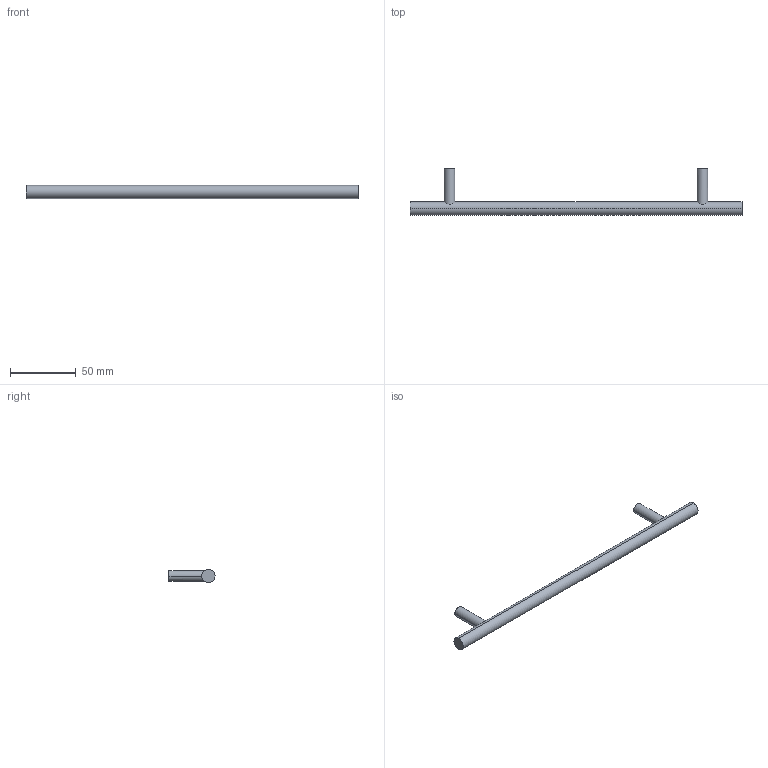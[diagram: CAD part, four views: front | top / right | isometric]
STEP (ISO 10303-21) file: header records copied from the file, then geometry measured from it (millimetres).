
FILE_DESCRIPTION( ( '' ), '1' );
FILE_NAME( 'D:/1.AUTOCAD EXPORT/Group 10/sheet_10_1/9070982.stp', '2013-10-21T08:33:57', ( '' ), ( '' ), ' ', ' ', ' ' );
FILE_SCHEMA( ( 'automotive_design' ) );
Length unit declared in the file: millimetre
Products named in the file (1): 1
Bounding box: 252 x 35 x 10 mm (x, y, z)
Volume: 22048.1 mm3; surface area: 9668.2 mm2
Topology: 1 solids, 1 shells, 16 faces, 32 edges, 22 vertices
Faces by surface type: cylinder 10, plane 6
Entity records: 972 total; most frequent: CARTESIAN_POINT 205, DIRECTION 76, STYLED_ITEM 71, PRESENTATION_STYLE_ASSIGNMENT 71, COLOUR_RGB 71, ORIENTED_EDGE 64, AXIS2_PLACEMENT_3D 33, EDGE_CURVE 32
